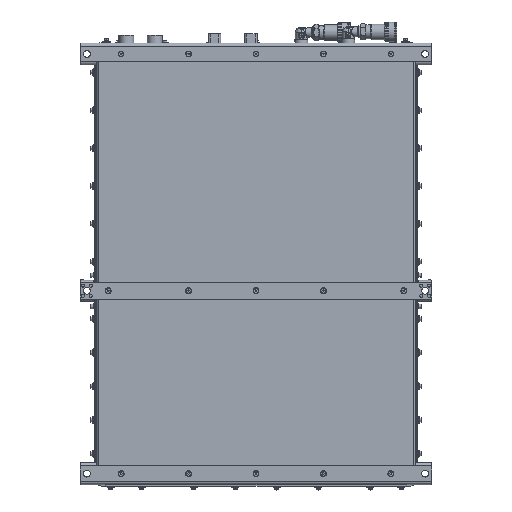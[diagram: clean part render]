
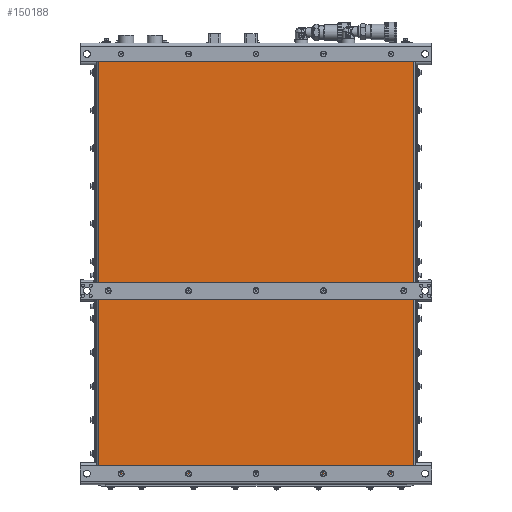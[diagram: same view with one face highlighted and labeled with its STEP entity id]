
A CAD part, front view. The second image highlights one B-rep face of the part: STEP entity #150188.
In plain terms, the highlighted planar face has unit normal (0, -1, 0).
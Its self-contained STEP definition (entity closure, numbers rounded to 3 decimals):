
#12321 = ORIENTED_EDGE ( 'NONE', *, *, #20812, .T. ) ;
#13370 = DIRECTION ( 'NONE',  ( 1., 0., 0. ) ) ;
#20661 = CARTESIAN_POINT ( 'NONE',  ( 307.5, -1.5, -432. ) ) ;
#20812 = EDGE_CURVE ( 'NONE', #89502, #79450, #80644, .T. ) ;
#29235 = DIRECTION ( 'NONE',  ( 0., -1., 0. ) ) ;
#30262 = PLANE ( 'NONE',  #54833 ) ;
#39508 = ORIENTED_EDGE ( 'NONE', *, *, #183233, .T. ) ;
#46893 = VECTOR ( 'NONE', #83806, 1000. ) ;
#51784 = VECTOR ( 'NONE', #152491, 1000. ) ;
#54833 = AXIS2_PLACEMENT_3D ( 'NONE', #174122, #29235, #13370 ) ;
#55649 = EDGE_CURVE ( 'NONE', #79450, #161312, #125955, .T. ) ;
#59376 = CARTESIAN_POINT ( 'NONE',  ( -304.5, -1.5, -435. ) ) ;
#75601 = CARTESIAN_POINT ( 'NONE',  ( -304.5, -1.5, -432. ) ) ;
#79450 = VERTEX_POINT ( 'NONE', #166439 ) ;
#80644 = LINE ( 'NONE', #146211, #46893 ) ;
#83806 = DIRECTION ( 'NONE',  ( -1., 0., 0. ) ) ;
#89502 = VERTEX_POINT ( 'NONE', #168966 ) ;
#93944 = EDGE_CURVE ( 'NONE', #161312, #118720, #181427, .T. ) ;
#106053 = CARTESIAN_POINT ( 'NONE',  ( 304.5, -1.5, -432. ) ) ;
#116597 = VECTOR ( 'NONE', #168636, 1000. ) ;
#118719 = CARTESIAN_POINT ( 'NONE',  ( 304.5, -1.5, 410. ) ) ;
#118720 = VERTEX_POINT ( 'NONE', #106053 ) ;
#123866 = DIRECTION ( 'NONE',  ( 0., 0., -1. ) ) ;
#124177 = EDGE_LOOP ( 'NONE', ( #160558, #39508, #12321, #187795 ) ) ;
#125955 = LINE ( 'NONE', #59376, #180514 ) ;
#142286 = FACE_OUTER_BOUND ( 'NONE', #124177, .T. ) ;
#146211 = CARTESIAN_POINT ( 'NONE',  ( -307.5, -1.5, 407. ) ) ;
#150188 = ADVANCED_FACE ( 'NONE', ( #142286 ), #30262, .T. ) ;
#152491 = DIRECTION ( 'NONE',  ( 0., 0., 1. ) ) ;
#160558 = ORIENTED_EDGE ( 'NONE', *, *, #93944, .T. ) ;
#161312 = VERTEX_POINT ( 'NONE', #75601 ) ;
#166439 = CARTESIAN_POINT ( 'NONE',  ( -304.5, -1.5, 407. ) ) ;
#168636 = DIRECTION ( 'NONE',  ( 1., 0., 0. ) ) ;
#168966 = CARTESIAN_POINT ( 'NONE',  ( 304.5, -1.5, 407. ) ) ;
#174122 = CARTESIAN_POINT ( 'NONE',  ( 0., -1.5, -12.5 ) ) ;
#180514 = VECTOR ( 'NONE', #123866, 1000. ) ;
#181427 = LINE ( 'NONE', #20661, #116597 ) ;
#183233 = EDGE_CURVE ( 'NONE', #118720, #89502, #204381, .T. ) ;
#187795 = ORIENTED_EDGE ( 'NONE', *, *, #55649, .T. ) ;
#204381 = LINE ( 'NONE', #118719, #51784 ) ;
